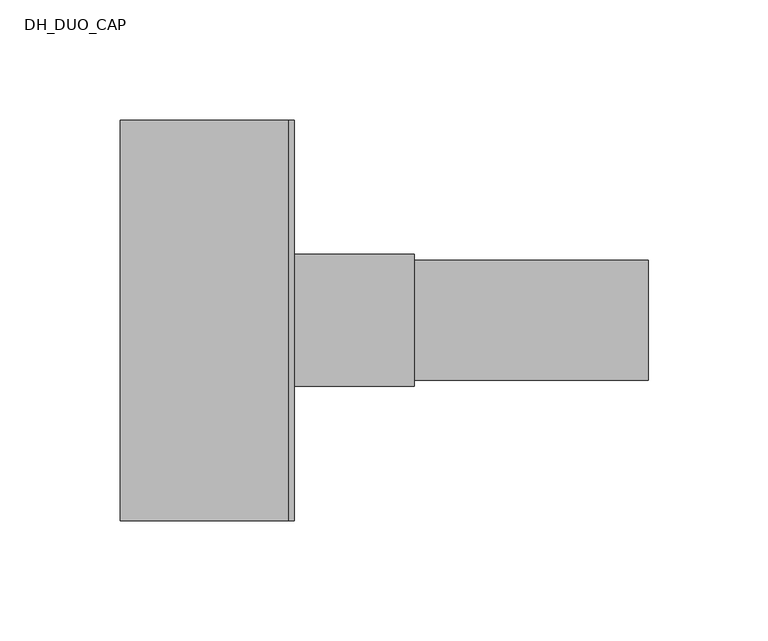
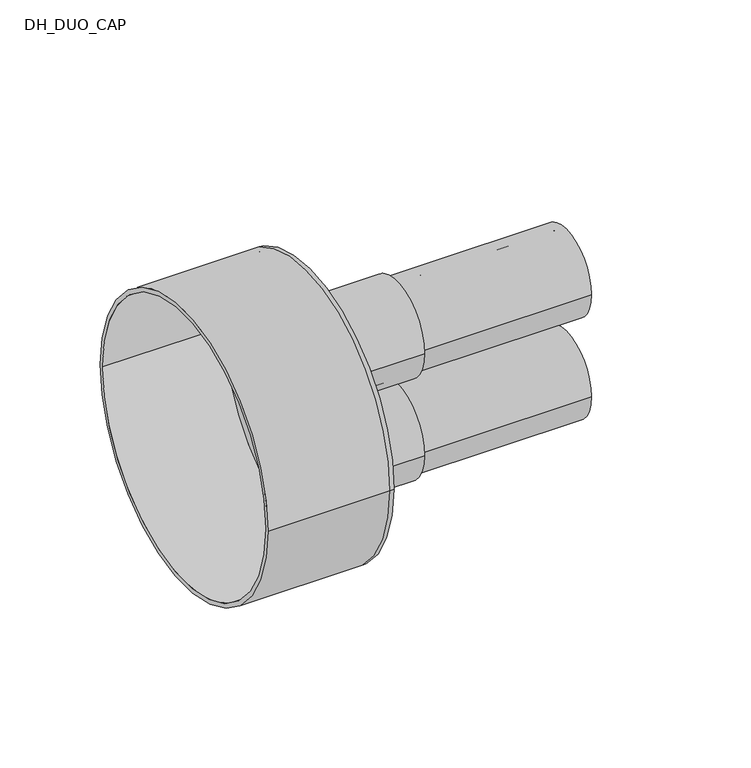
"""IFC4 building model written with IfcOpenShell, lengths in millimetres: pipe fitting geometry, DH_DUO_CAP : RAUTHERMEX DUO 11 Heating - Rubber Cap."""

from ifc_helpers import new_model, si_unit, point, frame, frame_2d, origin, place, context, project, spatial, polyline, circle_curve, trimmed, segment, composite_curve, outline, extrude, source, transform, mapped, element, save
from ifc_brep_helpers import plane_surface, cylinder_surface, revolved_surface, advanced_brep


def dh_duo_cap_8b861d38(model_context):
    return source(origin(), model_context, "Body", "SolidModel", [
        extrude(outline(composite_curve([segment(trimmed(circle_curve(frame_2d((0.0, -31.0)), 25.0), [point((-25.0, -31.0))], [point((25.0, -31.0))], False, "CARTESIAN"), True, "CONTINUOUS"), segment(trimmed(circle_curve(frame_2d((0.0, -31.0)), 25.0), [point((25.0, -31.0))], [point((-25.0, -31.0))], False, "CARTESIAN"), True, "CONTINUOUS")], self_intersect=False), holes=[composite_curve([segment(trimmed(circle_curve(frame_2d((0.0, -31.0)), 20.4), [point((-20.4, -31.0))], [point((20.4, -31.0))], True, "CARTESIAN"), True, "CONTINUOUS"), segment(trimmed(circle_curve(frame_2d((0.0, -31.0)), 20.4), [point((20.4, -31.0))], [point((-20.4, -31.0))], True, "CARTESIAN"), True, "CONTINUOUS")], self_intersect=False)]), frame((0.0, 0.0, 0.0), z_axis=(1.0, 0.0, 0.0), x_axis=(0.0, 1.0, 0.0)), (0.0, 0.0, 1.0), 150.0),
        extrude(outline(composite_curve([segment(trimmed(circle_curve(frame_2d((0.0, 31.0)), 25.0), [point((-25.0, 31.0))], [point((25.0, 31.0))], False, "CARTESIAN"), True, "CONTINUOUS"), segment(trimmed(circle_curve(frame_2d((0.0, 31.0)), 25.0), [point((25.0, 31.0))], [point((-25.0, 31.0))], False, "CARTESIAN"), True, "CONTINUOUS")], self_intersect=False), holes=[composite_curve([segment(trimmed(circle_curve(frame_2d((0.0, 31.0)), 20.4), [point((-20.4, 31.0))], [point((20.4, 31.0))], True, "CARTESIAN"), True, "CONTINUOUS"), segment(trimmed(circle_curve(frame_2d((0.0, 31.0)), 20.4), [point((20.4, 31.0))], [point((-20.4, 31.0))], True, "CARTESIAN"), True, "CONTINUOUS")], self_intersect=False)]), frame((0.0, 0.0, 0.0), z_axis=(1.0, 0.0, 0.0), x_axis=(0.0, 1.0, 0.0)), (0.0, 0.0, 1.0), 150.0),
        advanced_brep(
        [(-70.0, -83.5, 0.0), (-70.0, 83.5, 0.0), (-70.0, -81.0, 0.0), (-70.0, 81.0, 0.0), (0.0, -81.0, 0.0), (0.0, 81.0, 0.0), (0.0, -83.5, 0.0), (0.0, 83.5, 0.0), (0.0, 25.0, 31.0), (0.0, -25.0, 31.0), (0.0, 25.0, -31.0), (0.0, -25.0, -31.0), (2.5, -83.5, 0.0), (2.5, 83.5, 0.0), (2.5, -25.0, 31.0), (2.5, 25.0, 31.0), (2.5, -25.0, -31.0), (2.5, 25.0, -31.0)],
        [
            (0, 1, circle_curve(frame((-70.0, 0.0, 0.0), z_axis=(-1.0, 0.0, 0.0), x_axis=(0.0, 1.0, 0.0)), 83.5)),
            (1, 0, circle_curve(frame((-70.0, 0.0, 0.0), z_axis=(-1.0, 0.0, 0.0), x_axis=(0.0, 1.0, 0.0)), 83.5)),
            (2, 3, circle_curve(frame((-70.0, 0.0, 0.0), z_axis=(1.0, 0.0, 0.0), x_axis=(0.0, 1.0, 0.0)), 81.0)),
            (3, 2, circle_curve(frame((-70.0, 0.0, 0.0), z_axis=(1.0, 0.0, 0.0), x_axis=(0.0, 1.0, 0.0)), 81.0)),
            (2, 4),
            (4, 5, circle_curve(frame((0.0, 0.0, 0.0), z_axis=(1.0, 0.0, 0.0), x_axis=(0.0, 1.0, 0.0)), 81.0)),
            (5, 3),
            (5, 4, circle_curve(frame((0.0, 0.0, 0.0), z_axis=(1.0, 0.0, 0.0), x_axis=(0.0, 1.0, 0.0)), 81.0)),
            (0, 6),
            (6, 7, circle_curve(frame((0.0, 0.0, 0.0), z_axis=(-1.0, 0.0, 0.0), x_axis=(0.0, 1.0, 0.0)), 83.5)),
            (7, 1),
            (7, 6, circle_curve(frame((0.0, 0.0, 0.0), z_axis=(-1.0, 0.0, 0.0), x_axis=(0.0, 1.0, 0.0)), 83.5)),
            (8, 9, circle_curve(frame((0.0, 0.0, 31.0), z_axis=(1.0, 0.0, 0.0), x_axis=(0.0, 1.0, 0.0)), 25.0)),
            (9, 8, circle_curve(frame((0.0, 0.0, 31.0), z_axis=(1.0, 0.0, 0.0), x_axis=(0.0, 1.0, 0.0)), 25.0)),
            (10, 11, circle_curve(frame((0.0, 0.0, -31.0), z_axis=(1.0, 0.0, 0.0), x_axis=(0.0, 1.0, 0.0)), 25.0)),
            (11, 10, circle_curve(frame((0.0, 0.0, -31.0), z_axis=(1.0, 0.0, 0.0), x_axis=(0.0, 1.0, 0.0)), 25.0)),
            (12, 13, circle_curve(frame((2.5, 0.0, 0.0), z_axis=(1.0, 0.0, 0.0), x_axis=(0.0, 1.0, 0.0)), 83.5)),
            (13, 12, circle_curve(frame((2.5, 0.0, 0.0), z_axis=(1.0, 0.0, 0.0), x_axis=(0.0, 1.0, 0.0)), 83.5)),
            (14, 15, circle_curve(frame((2.5, 0.0, 31.0), z_axis=(-1.0, 0.0, 0.0), x_axis=(0.0, 1.0, 0.0)), 25.0)),
            (15, 14, circle_curve(frame((2.5, 0.0, 31.0), z_axis=(-1.0, 0.0, 0.0), x_axis=(0.0, 1.0, 0.0)), 25.0)),
            (16, 17, circle_curve(frame((2.5, 0.0, -31.0), z_axis=(-1.0, 0.0, 0.0), x_axis=(0.0, 1.0, 0.0)), 25.0)),
            (17, 16, circle_curve(frame((2.5, 0.0, -31.0), z_axis=(-1.0, 0.0, 0.0), x_axis=(0.0, 1.0, 0.0)), 25.0)),
            (13, 7),
            (6, 12),
            (8, 15),
            (14, 9),
            (10, 17),
            (16, 11),
        ],
        [
            plane_surface(frame((-70.0, 0.0, 0.0), z_axis=(-1.0, 0.0, 0.0), x_axis=(0.0, 0.0, 1.0))),
            revolved_surface(polyline([(0.0, 81.0, 0.0), (-70.0, 81.0, 0.0)]), (-70.0, 0.0, 0.0), (1.0, 0.0, 0.0)),
            cylinder_surface(frame((-70.0, 0.0, 0.0), z_axis=(-1.0, 0.0, 0.0), x_axis=(0.0, 1.0, 0.0)), 83.5),
            plane_surface(frame((0.0, 0.0, 0.0), z_axis=(-1.0, 0.0, 0.0), x_axis=(0.0, 0.0, 1.0))),
            plane_surface(frame((2.5, 0.0, 0.0), z_axis=(1.0, 0.0, 0.0), x_axis=(0.0, 0.0, 1.0))),
            cylinder_surface(frame((0.0, 0.0, 0.0), z_axis=(-1.0, 0.0, 0.0), x_axis=(0.0, 1.0, 0.0)), 83.5),
            revolved_surface(polyline([(0.0, 25.0, 31.0), (2.5, 25.0, 31.0)]), (0.0, 0.0, 31.0), (-1.0, 0.0, 0.0)),
            revolved_surface(polyline([(0.0, 25.0, -31.0), (2.5, 25.0, -31.0)]), (0.0, 0.0, -31.0), (-1.0, 0.0, 0.0)),
        ],
        [
            (0, [[1, 2], [3, 4]]),
            (1, [[-3, 5, 6, 7]]),
            (1, [[-4, -7, 8, -5]]),
            (2, [[-1, 9, 10, 11]]),
            (2, [[-2, -11, 12, -9]]),
            (3, [[-6, -8], [13, 14], [15, 16]]),
            (4, [[17, 18], [19, 20], [21, 22]]),
            (5, [[-18, 23, -10, 24]]),
            (5, [[-17, -24, -12, -23]]),
            (6, [[25, -19, 26, -13]]),
            (6, [[-25, -14, -26, -20]]),
            (7, [[27, -21, 28, -15]]),
            (7, [[-27, -16, -28, -22]]),
        ],
    ),
        extrude(outline(composite_curve([segment(trimmed(circle_curve(frame_2d((0.0, -31.0)), 27.5), [point((-27.5, -31.0))], [point((27.5, -31.0))], False, "CARTESIAN"), True, "CONTINUOUS"), segment(trimmed(circle_curve(frame_2d((0.0, -31.0)), 27.5), [point((27.5, -31.0))], [point((-27.5, -31.0))], False, "CARTESIAN"), True, "CONTINUOUS")], self_intersect=False), holes=[composite_curve([segment(trimmed(circle_curve(frame_2d((0.0, -31.0)), 25.0), [point((-25.0, -31.0))], [point((25.0, -31.0))], True, "CARTESIAN"), True, "CONTINUOUS"), segment(trimmed(circle_curve(frame_2d((0.0, -31.0)), 25.0), [point((25.0, -31.0))], [point((-25.0, -31.0))], True, "CARTESIAN"), True, "CONTINUOUS")], self_intersect=False)]), frame((2.5, 0.0, 0.0), z_axis=(1.0, 0.0, 0.0), x_axis=(0.0, 1.0, 0.0)), (0.0, 0.0, 1.0), 50.0),
        extrude(outline(composite_curve([segment(trimmed(circle_curve(frame_2d((0.0, 31.0)), 27.5), [point((-27.5, 31.0))], [point((27.5, 31.0))], False, "CARTESIAN"), True, "CONTINUOUS"), segment(trimmed(circle_curve(frame_2d((0.0, 31.0)), 27.5), [point((27.5, 31.0))], [point((-27.5, 31.0))], False, "CARTESIAN"), True, "CONTINUOUS")], self_intersect=False), holes=[composite_curve([segment(trimmed(circle_curve(frame_2d((0.0, 31.0)), 25.0), [point((-25.0, 31.0))], [point((25.0, 31.0))], True, "CARTESIAN"), True, "CONTINUOUS"), segment(trimmed(circle_curve(frame_2d((0.0, 31.0)), 25.0), [point((25.0, 31.0))], [point((-25.0, 31.0))], True, "CARTESIAN"), True, "CONTINUOUS")], self_intersect=False)]), frame((2.5, 0.0, 0.0), z_axis=(1.0, 0.0, 0.0), x_axis=(0.0, 1.0, 0.0)), (0.0, 0.0, 1.0), 50.0),
    ])


if __name__ == "__main__":
    model = new_model("IFC4")
    model_context = context("Model", 3, world=origin())
    ifc_project = project(units=[si_unit("LENGTHUNIT", "METRE", prefix="MILLI")], contexts=[model_context])
    site = spatial("IfcSite", under=ifc_project)
    building = spatial("IfcBuilding", under=site)
    placement = place(None, origin())
    dh_duo_cap_shape = dh_duo_cap_8b861d38(model_context)
    element("IfcPipeFitting", 1, ObjectType="DH_DUO_CAP : RAUTHERMEX DUO 11 Heating - Rubber Cap", at=placement, inside=building, context=model_context, shape_type="MappedRepresentation", body=[
        mapped(dh_duo_cap_shape, transform((0.0, 0.0, 0.0), x_axis=(1.0, 0.0, 0.0), y_axis=(0.0, 1.0, 0.0), z_axis=(0.0, 0.0, 1.0))),
    ])
    save(model, "model.ifc")
